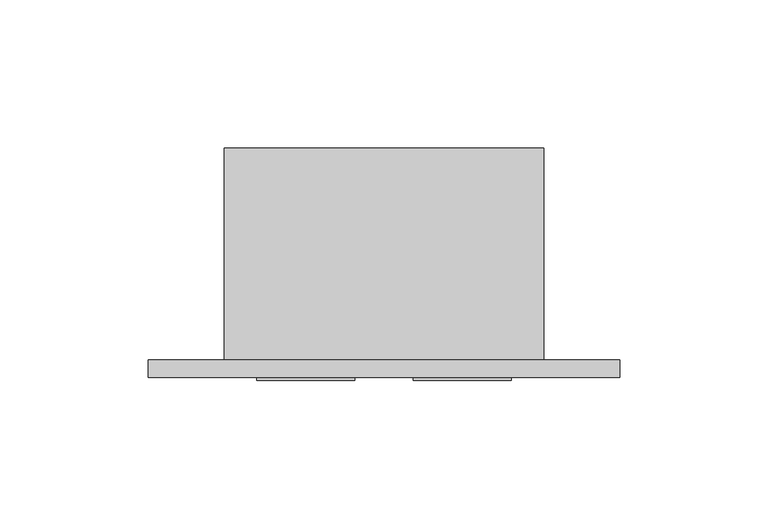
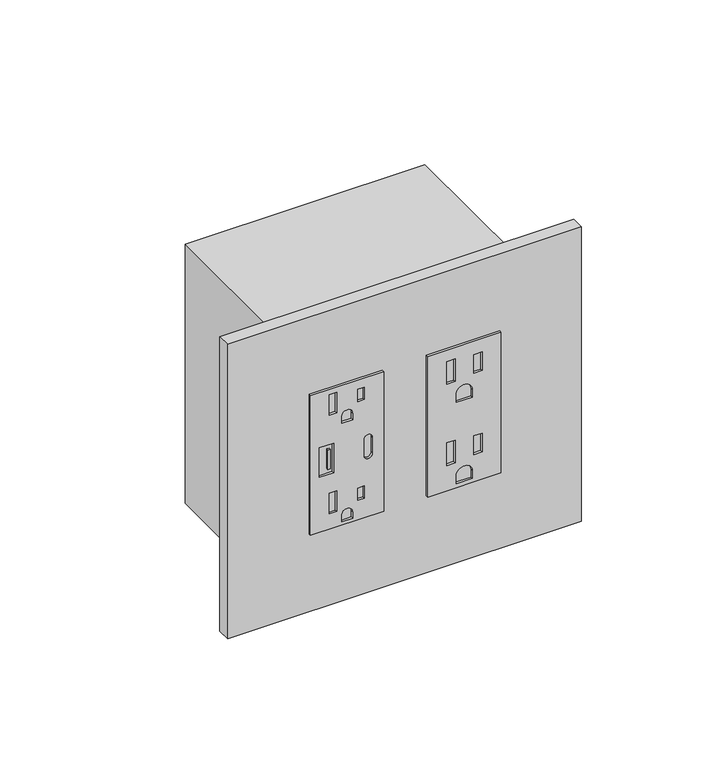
"""IFC4 building model written with IfcOpenShell, lengths in millimetres: proxy geometry, Electrical-Teknion-EPDMD_Vertical_Power_Data_Double-R2019 : PD Vertical Module - Double 15 Amp USB (A+C) & 15 Amp Standard."""

from ifc_helpers import new_model, si_unit, point, frame, frame_2d, origin, place, context, project, spatial, polyline, circle_curve, trimmed, segment, composite_curve, outline, extrude, source, transform, mapped, element, save


def electrical_fixtures_3127a11c(model_context):
    return source(origin(), model_context, "Body", "SweptSolid", [
        extrude(outline(polyline([(414.3876229, 96.9264), (414.3876229, 63.9318), (347.4332229, 63.9318), (347.4332229, 96.9264), (414.3876229, 96.9264)]), holes=[polyline([(409.0028229, 76.2762), (398.1824229, 76.2762), (398.1824229, 72.4408), (409.0028229, 72.4408), (409.0028229, 76.2762)]), polyline([(408.0249229, 88.4428), (399.1603229, 88.4428), (399.1603229, 84.6074), (408.0249229, 84.6074), (408.0249229, 88.4428)]), composite_curve([segment(polyline([(387.9970229, 76.7969), (391.6292229, 76.7969)]), True, "CONTINUOUS"), segment(trimmed(circle_curve(frame_2d((391.6292229, 80.4291)), 3.6322), [point((391.6292229, 76.7969))], [point((391.6292229, 84.0613))], True, "CARTESIAN"), True, "CONTINUOUS"), segment(polyline([(391.6292229, 84.0613), (387.9970229, 84.0613), (387.9970229, 76.7969)]), True, "CONTINUOUS")], self_intersect=False), polyline([(370.2678229, 76.2762), (359.4474229, 76.2762), (359.4474229, 72.4408), (370.2678229, 72.4408), (370.2678229, 76.2762)]), polyline([(369.2899229, 88.4428), (360.4253229, 88.4428), (360.4253229, 84.6074), (369.2899229, 84.6074), (369.2899229, 88.4428)]), composite_curve([segment(polyline([(352.8942229, 84.0613), (349.2620229, 84.0613), (349.2620229, 76.7969), (352.8942229, 76.7969)]), True, "CONTINUOUS"), segment(trimmed(circle_curve(frame_2d((352.8942229, 80.4291)), 3.6322), [point((352.8942229, 76.7969))], [point((352.8942229, 84.0613))], True, "CARTESIAN"), True, "CONTINUOUS")], self_intersect=False)]), frame((0.0, -6.9294746, 0.0), z_axis=(0.0, 1.0, 0.0), x_axis=(0.0, 0.0, 1.0)), (0.0, 0.0, 1.0), 1.0366746),
        extrude(outline(polyline([(414.1844229, 44.0944), (414.1844229, 11.0998), (347.6364229, 11.0998), (347.6364229, 44.0944), (414.1844229, 44.0944)]), holes=[polyline([(411.7460229, 22.9616), (401.9184878, 22.9616), (401.9184878, 19.6342), (411.7460229, 19.6342), (411.7460229, 22.9616)]), polyline([(409.7405554, 35.41014), (403.9239554, 35.41014), (403.9239554, 32.4358), (409.7405554, 32.4358), (409.7405554, 35.41014)]), composite_curve([segment(polyline([(396.1504229, 30.0609), (396.1504229, 25.1333), (399.2492229, 25.1333)]), True, "CONTINUOUS"), segment(trimmed(circle_curve(frame_2d((399.2492229, 27.5971)), 2.4638), [point((399.2492229, 25.1333))], [point((399.2492229, 30.0609))], True, "CARTESIAN"), True, "CONTINUOUS"), segment(polyline([(399.2492229, 30.0609), (396.1504229, 30.0609)]), True, "CONTINUOUS")], self_intersect=False), polyline([(364.7560229, 22.9616), (354.9284878, 22.9616), (354.9284878, 19.6342), (364.7560229, 19.6342), (364.7560229, 22.9616)]), polyline([(362.7505554, 35.41014), (356.9339554, 35.41014), (356.9339554, 32.4358), (362.7505554, 32.4358), (362.7505554, 35.41014)]), composite_curve([segment(polyline([(349.1604229, 30.0609), (349.1604229, 25.1333), (352.2592229, 25.1333)]), True, "CONTINUOUS"), segment(trimmed(circle_curve(frame_2d((352.2592229, 27.5971)), 2.4638), [point((352.2592229, 25.1333))], [point((352.2592229, 30.0609))], True, "CARTESIAN"), True, "CONTINUOUS"), segment(polyline([(352.2592229, 30.0609), (349.1604229, 30.0609)]), True, "CONTINUOUS")], self_intersect=False), polyline([(387.9589229, 21.59), (373.8619229, 21.59), (373.8619229, 15.0876), (387.9589229, 15.0876), (387.9589229, 21.59)]), composite_curve([segment(trimmed(circle_curve(frame_2d((377.1258229, 37.1348)), 1.905), [point((377.1258229, 39.0398))], [point((377.1258229, 35.2298))], True, "CARTESIAN"), True, "CONTINUOUS"), segment(polyline([(377.1258229, 35.2298), (384.6950229, 35.2298)]), True, "CONTINUOUS"), segment(trimmed(circle_curve(frame_2d((384.6950229, 37.1348)), 1.905), [point((384.6950229, 35.2298))], [point((384.6950229, 39.0398))], True, "CARTESIAN"), True, "CONTINUOUS"), segment(polyline([(384.6950229, 39.0398), (377.1258229, 39.0398)]), True, "CONTINUOUS")], self_intersect=False)]), frame((0.0, -6.9294746, 0.0), z_axis=(0.0, 1.0, 0.0), x_axis=(0.0, 0.0, 1.0)), (0.0, 0.0, 1.0), 1.0366746),
        extrude(outline(polyline([(20.0803959, -6.9294746), (18.9613268, -6.9294746), (18.9613268, -5.8928), (20.0803959, -5.8928), (20.0803959, -6.9294746)])), frame((0.0, 0.0, 376.2102391), z_axis=(0.0, 0.0, 1.0), x_axis=(1.0, 0.0, 0.0)), (0.0, 0.0, 1.0), 9.2470447),
        extrude(outline(polyline([(-25.6794, 0.0), (133.7056, 0.0), (133.7056, -5.8928), (-25.6794, -5.8928), (-25.6794, 0.0)])), frame((0.0, 0.0, 310.7302229), z_axis=(0.0, 0.0, 1.0), x_axis=(1.0, 0.0, 0.0)), (0.0, 0.0, 1.0), 140.3604),
        extrude(outline(polyline([(108.0262, 0.0), (0.0, 0.0), (0.0, 71.7296), (108.0262, 71.7296), (108.0262, 0.0)])), frame((0.0, 0.0, 319.1630229), z_axis=(0.0, 0.0, 1.0), x_axis=(1.0, 0.0, 0.0)), (0.0, 0.0, 1.0), 123.4948),
    ])


if __name__ == "__main__":
    model = new_model("IFC4")
    model_context = context("Model", 3, world=origin())
    ifc_project = project(units=[si_unit("LENGTHUNIT", "METRE", prefix="MILLI")], contexts=[model_context])
    site = spatial("IfcSite", under=ifc_project)
    building = spatial("IfcBuilding", under=site)
    placement = place(None, origin())
    electrical_fixtures_shape = electrical_fixtures_3127a11c(model_context)
    element("IfcBuildingElementProxy", 1, Name="Electrical-Teknion-EPDMD_Vertical_Power_Data_Double-R2019 : PD Vertical Module - Double 15 Amp USB (A+C) & 15 Amp Standard", ObjectType="Electrical-Teknion-EPDMD_Vertical_Power_Data_Double-R2019 : PD Vertical Module - Double 15 Amp USB (A+C) & 15 Amp Standard", at=placement, inside=building, context=model_context, shape_type="MappedRepresentation", body=[
        mapped(electrical_fixtures_shape, transform((0.0, 0.0, 0.0), x_axis=(1.0, 0.0, 0.0), y_axis=(0.0, 1.0, 0.0), z_axis=(0.0, 0.0, 1.0))),
    ])
    save(model, "model.ifc")
